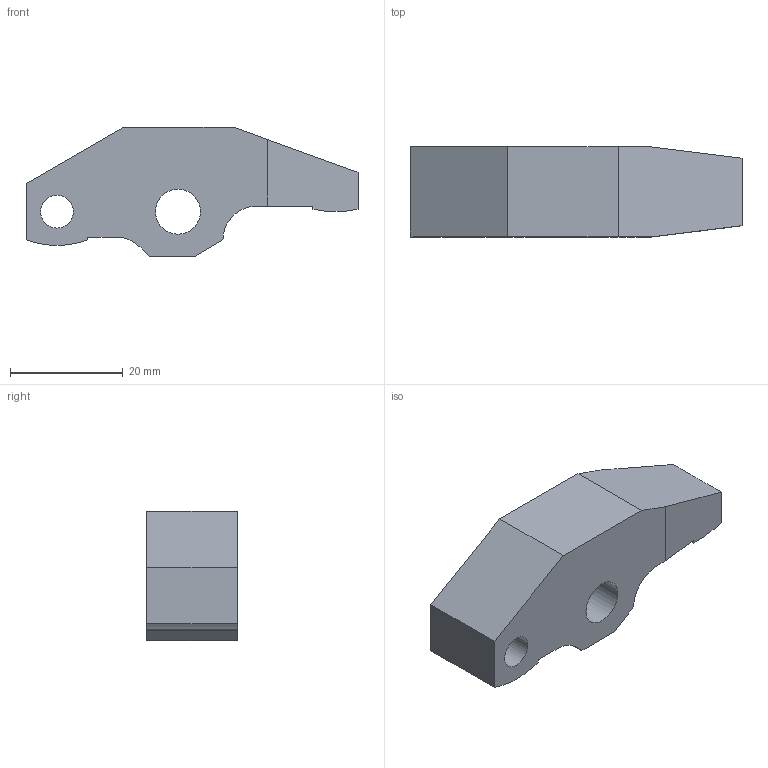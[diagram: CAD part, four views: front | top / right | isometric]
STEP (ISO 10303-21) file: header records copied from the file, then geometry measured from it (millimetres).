
FILE_DESCRIPTION( ( '' ), '1' );
FILE_NAME( 'W:/Catalogue/JLF5H/JLF5H_OPTION/JLF5H34_ClampArm.stp', '2008-05-26T02:49:00', ( '機械事業部産業機器グループ' ), ( '豊和工業株式会社' ), 'XStep 1.0', ' ', ' ' );
FILE_SCHEMA( ( 'CONFIG_CONTROL_DESIGN' ) );
Length unit declared in the file: millimetre
Products named in the file (1): 1
Bounding box: 59 x 16 x 23 mm (x, y, z)
Volume: 13159.8 mm3; surface area: 4610.4 mm2
Topology: 1 solids, 1 shells, 22 faces, 60 edges, 40 vertices
Faces by surface type: plane 16, cylinder 6
Full cylindrical faces by diameter (mm): 5.8 x1, 8 x1
Entity records: 738 total; most frequent: CARTESIAN_POINT 121, DIRECTION 116, ORIENTED_EDGE 116, EDGE_CURVE 58, LINE 46, VECTOR 46, VERTEX_POINT 40, AXIS2_PLACEMENT_3D 35
